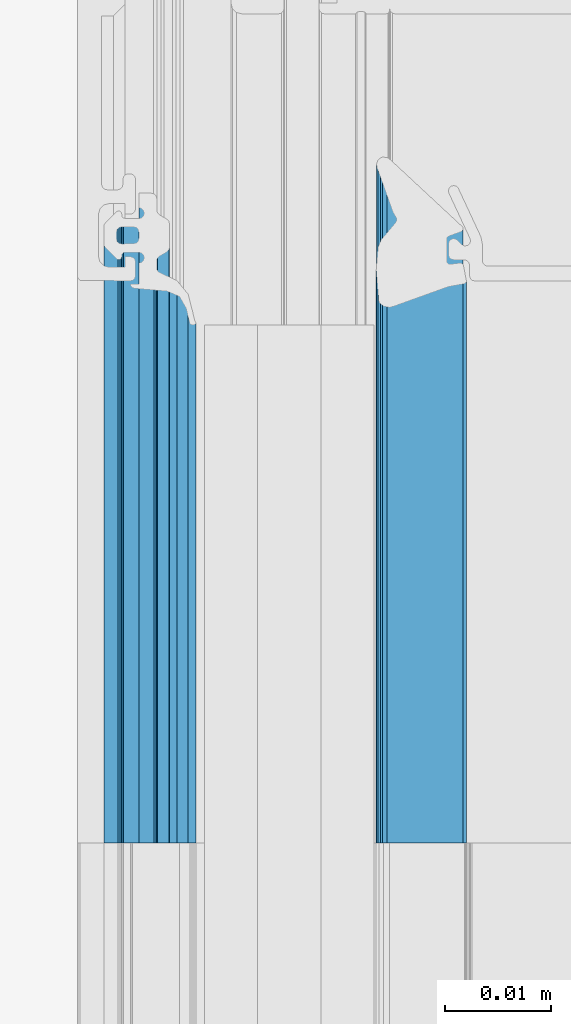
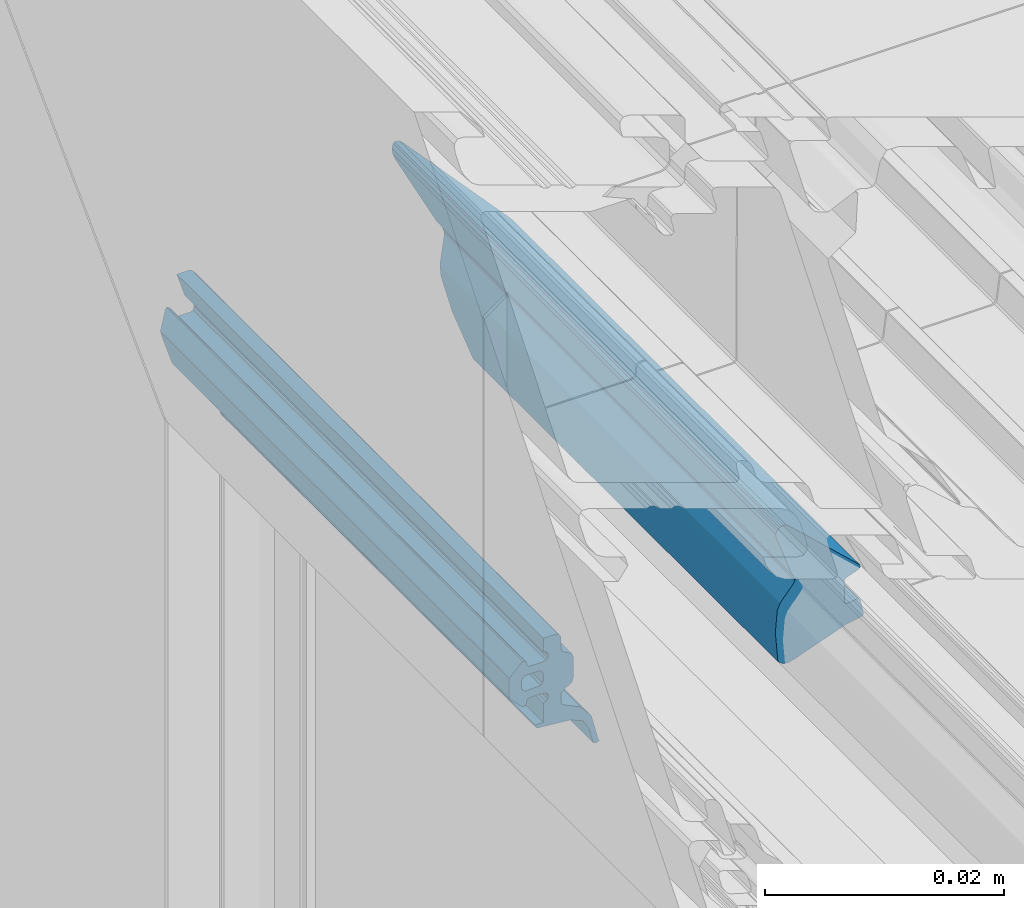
# One storey, part 57 of 62: 1 building element part, 2 elements without a shape of their own.
"""IFC2X3 building model written with IfcOpenShell, lengths in millimetres."""

from ifc_helpers import new_model, entity, si_unit, converted_unit, derived_unit, money_unit, direction, frame, origin_with_axes, place, context, subcontext, project, spatial, faceted_brep, material, type_object, element, aggregate, save


model = new_model("IFC2X3")

# Units and contexts
model_context = context("Model", 3, precision=0.01, world=origin_with_axes(), true_north=direction((0.0, 1.0)))
body_context = subcontext(model_context, "Body", "Model", "MODEL_VIEW")
ifc_project = project(units=[si_unit("LENGTHUNIT", "METRE", prefix="MILLI"), si_unit("AREAUNIT", "SQUARE_METRE"), si_unit("VOLUMEUNIT", "CUBIC_METRE"), converted_unit("PLANEANGLEUNIT", "DEGREE", entity("IfcPlaneAngleMeasure", 0.0174532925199), si_unit("PLANEANGLEUNIT", "RADIAN"), dimensions=[0, 0, 0, 0, 0, 0, 0]), si_unit("SOLIDANGLEUNIT", "STERADIAN"), money_unit("EUR"), converted_unit("TIMEUNIT", "Year", entity("IfcTimeMeasure", 31556926.0), si_unit("TIMEUNIT", "SECOND"), dimensions=[0, 0, 1, 0, 0, 0, 0]), si_unit("MASSUNIT", "GRAM", prefix="KILO"), si_unit("THERMODYNAMICTEMPERATUREUNIT", "DEGREE_CELSIUS"), si_unit("LUMINOUSINTENSITYUNIT", "LUMEN"), si_unit("ENERGYUNIT", "JOULE", prefix="MEGA"), derived_unit("THERMALCONDUCTANCEUNIT", [(si_unit("POWERUNIT", "WATT"), 1), (si_unit("LENGTHUNIT", "METRE"), -1), (si_unit("THERMODYNAMICTEMPERATUREUNIT", "KELVIN"), -1)]), derived_unit("SPECIFICHEATCAPACITYUNIT", [(si_unit("ENERGYUNIT", "JOULE"), 1), (si_unit("MASSUNIT", "GRAM", prefix="KILO"), -1), (si_unit("THERMODYNAMICTEMPERATUREUNIT", "KELVIN"), -1)]), derived_unit("MASSDENSITYUNIT", [(si_unit("MASSUNIT", "GRAM", prefix="KILO"), 1), (si_unit("VOLUMEUNIT", "CUBIC_METRE"), -1)])], contexts=[model_context])

# Site, building, storey
site_placement = place(None, origin_with_axes())
site = spatial("IfcSite", under=ifc_project, at=site_placement, Name="Puškini 31, Narva", CompositionType="ELEMENT")
building_placement = place(site_placement, origin_with_axes())
building = spatial("IfcBuilding", under=site, at=building_placement, Name="Narva Riigigümnaasium", CompositionType="ELEMENT")
storey_placement = place(building_placement, frame((0.0, 0.0, 660.0), z_axis=(0.0, 0.0, 1.0), x_axis=(1.0, 0.0, 0.0)))
storey = spatial("IfcBuildingStorey", under=building, at=storey_placement, Name="2.korrus +0.66", CompositionType="ELEMENT", Elevation=660.0)

# Curtain wall, member, building element part
curtain_wall_type = type_object("IfcCurtainWallType", Name="Curtain Wall Type", PredefinedType="NOTDEFINED")
curtain_wall_placement = place(storey_placement, frame((47544.998162, 221675.502168, -2.45869393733e-05), z_axis=(0.0, 0.0, 1.0), x_axis=(1.0, 0.0, 0.0)))
curtain_wall = element("IfcCurtainWall", 1, at=curtain_wall_placement, inside=storey, type_object=curtain_wall_type, Name="G-SKLF-51")
member_type = type_object("IfcMemberType", Name="61 x 45", PredefinedType="MULLION")
member_placement = place(curtain_wall_placement, frame((-0.00863927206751, 2014.50219759, 2950.00002459), z_axis=(-4.28853938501e-06, 0.999999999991, 0.0), x_axis=(0.0, 0.0, -1.0)))
member = element("IfcMember", 2, at=member_placement, type_object=member_type, Name="G-SKLF-70-raam", ObjectType="MULLION")
aggregate(curtain_wall, [member])
ifc_material = material(Name="Membraan - Veekindel")
building_element_part_placement = place(member_placement, origin_with_axes())
building_element_part = element("IfcBuildingElementPart", 3, at=building_element_part_placement, material=ifc_material, Name="Membraan - Veekindel", context=body_context, shape_type="Brep", body=[
    faceted_brep([(61.0413385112, 34.3890442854, 0.0), (59.5800222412, 34.73794757, 0.0), (59.5800222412, 34.73794757, 50.4157549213), (61.0413385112, 34.3890442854, 48.9544386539), (61.1536677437, 34.1934467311, 0.0), (61.1423164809, 33.9681748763, 0.0), (61.0108941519, 33.784859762, 0.0), (60.7381535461, 33.9217644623, 0.0), (59.8409257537, 34.1343131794, 0.0), (58.2346494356, 34.5489145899, 0.0), (56.9567944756, 35.6067920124, 0.0), (56.2495873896, 37.1074172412, 0.0), (56.1542959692, 37.3107917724, 0.0), (55.9795989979, 37.4519392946, 0.0), (55.7607444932, 37.5023809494, 0.0), (55.1093263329, 37.5023809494, 0.0), (54.8593263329, 37.4353936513, 0.0), (54.676313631, 37.2523809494, 0.0), (54.2721684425, 36.5523809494, 0.0), (54.0891557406, 36.3693682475, 0.0), (53.8391557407, 36.3023809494, 0.0), (51.602145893, 36.3023809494, 0.0), (51.352145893, 36.3693682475, 0.0), (51.1691331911, 36.5523809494, 0.0), (50.7649880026, 37.2523809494, 0.0), (50.5819753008, 37.4353936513, 0.0), (50.3319753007, 37.5023809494, 0.0), (49.2206527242, 37.5023809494, 0.0), (48.9706527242, 37.5693682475, 0.0), (48.7876400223, 37.7523809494, 0.0), (48.7206527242, 38.0023809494, 0.0), (48.7206527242, 39.1999494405, 0.0), (50.10004, 39.1999494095, 0.0), (50.1670287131, 38.9499497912, 0.0), (50.3500424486, 38.7669381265, 0.0), (50.6000428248, 38.699952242, 0.0), (50.8500424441, 38.7669409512, 0.0), (51.0330541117, 38.9499546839, 0.0), (51.10004, 39.1999550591, 0.0), (51.10004, 40.4999366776, 0.0), (51.0598476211, 40.6499366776, 0.0), (50.95004, 40.7597442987, 0.0), (50.80004, 40.7999366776, 0.0), (50.7000457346, 40.7999366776, 0.0), (50.5334025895, 40.8504763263, 0.0), (50.4229059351, 40.9850671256, 0.0), (50.4057850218, 41.1583618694, 0.0), (50.4878083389, 41.3119729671, 0.0), (51.5281601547, 42.3533311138, 0.0), (51.6904310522, 42.4618421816, 0.0), (51.8818844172, 42.4999486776, 0.0), (53.517932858, 42.4999486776, 0.0), (53.7093558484, 42.4618547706, 0.0), (53.8716106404, 42.3533776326, 0.0), (54.9122350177, 41.3120206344, 0.0), (54.9942836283, 41.1584047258, 0.0), (54.9771753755, 40.9850924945, 0.0), (54.866675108, 40.850483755, 0.0), (54.7000173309, 40.7999366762, 0.0), (54.6000210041, 40.7999366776, 0.0), (54.4500210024, 40.7597443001, 0.0), (54.3402133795, 40.6499366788, 0.0), (54.300021, 40.4999366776, 0.0), (54.300021, 39.1999606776, 0.0), (54.3670082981, 38.9499606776, 0.0), (54.5500210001, 38.7669479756, 0.0), (54.8000210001, 38.6999606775, 0.0), (55.0500210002, 38.7669479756, 0.0), (55.2330337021, 38.9499606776, 0.0), (55.3000210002, 39.1999606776, 0.0), (57.3000022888, 39.1999494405, 0.0), (57.3000022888, 39.9999846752, 0.0), (57.5000161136, 39.946391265, 0.0), (57.6464370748, 39.799971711, 0.0), (57.7000324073, 39.5999584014, 0.0), (57.9693613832, 36.5265882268, 0.0), (58.4755028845, 35.3628499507, 0.0), (53.5000340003, 40.7999553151, 0.0), (53.4330491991, 41.0499459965, 0.0), (53.2500433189, 41.2329518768, 0.0), (53.0000526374, 41.299936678, 0.0), (52.4000083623, 41.299936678, 0.0), (52.150017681, 41.2329518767, 0.0), (51.9670118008, 41.0499459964, 0.0), (51.9000269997, 40.799955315, 0.0), (51.9000269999, 39.6999268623, 0.0), (51.9670129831, 39.4499317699, 0.0), (52.1500220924, 39.2669226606, 0.0), (52.4000171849, 39.1999366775, 0.0), (53.0000438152, 39.1999366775, 0.0), (53.2500389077, 39.2669226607, 0.0), (53.433048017, 39.44993177, 0.0), (58.4755028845, 35.3628499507, 51.520274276), (57.9693613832, 36.5265882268, 52.0264157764), (57.7000324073, 39.5999584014, 52.2957447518), (57.6464370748, 39.799971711, 52.3493400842), (57.5000161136, 39.946391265, 52.4957610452), (57.3000022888, 39.9999846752, 52.6957748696), (57.3000022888, 39.1999494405, 52.6957748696), (55.3000210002, 39.1999606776, 54.6957561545), (55.2330337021, 38.9499606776, 54.7627434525), (55.0500210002, 38.7669479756, 54.9457561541), (54.8000210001, 38.6999606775, 55.1957561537), (54.5500210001, 38.7669479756, 55.4457561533), (54.3670082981, 38.9499606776, 55.6287688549), (54.300021, 39.1999606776, 55.6957561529), (54.300021, 40.4999366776, 55.6957561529), (54.3402133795, 40.6499366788, 55.6555637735), (54.4500210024, 40.7597443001, 55.5457561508), (54.6000210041, 40.7999366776, 55.3957561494), (54.7000173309, 40.7999366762, 55.2957598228), (54.866675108, 40.850483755, 55.1291020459), (54.9771753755, 40.9850924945, 55.0186017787), (54.9942836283, 41.1584047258, 55.0014935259), (54.9122350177, 41.3120206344, 55.0835421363), (53.8716106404, 42.3533776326, 56.1241665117), (53.7093558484, 42.4618547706, 56.2864213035), (53.517932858, 42.4999486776, 56.4778442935), (51.8818844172, 42.4999486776, 58.1138927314), (51.6904310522, 42.4618421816, 58.305346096), (51.5281601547, 42.3533311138, 58.4676169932), (50.4878083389, 41.3119729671, 59.5079688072), (50.4057850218, 41.1583618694, 59.5899921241), (50.4229059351, 40.9850671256, 59.5728712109), (50.5334025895, 40.8504763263, 59.4623745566), (50.7000457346, 40.7999366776, 59.2957314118), (50.80004, 40.7999366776, 59.1957371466), (50.95004, 40.7597442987, 59.0457371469), (51.0598476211, 40.6499366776, 58.9359295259), (51.10004, 40.4999366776, 58.8957371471), (51.10004, 39.1999550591, 58.8957371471), (51.0330541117, 38.9499546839, 58.9627230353), (50.8500424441, 38.7669409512, 59.1457347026), (50.6000428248, 38.699952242, 59.3957343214), (50.3500424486, 38.7669381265, 59.6457346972), (50.1670287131, 38.9499497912, 59.8287484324), (50.10004, 39.1999494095, 59.8957371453), (48.7206527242, 39.1999494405, 61.2751244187), (48.7206527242, 38.0023809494, 61.2751244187), (48.7876400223, 37.7523809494, 61.2081371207), (48.9706527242, 37.5693682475, 61.0251244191), (49.2206527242, 37.5023809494, 60.7751244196), (50.3319753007, 37.5023809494, 59.663801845), (50.5819753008, 37.4353936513, 59.4138018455), (50.7649880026, 37.2523809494, 59.2307891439), (51.1691331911, 36.5523809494, 58.8266439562), (51.352145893, 36.3693682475, 58.6436312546), (51.602145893, 36.3023809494, 58.3936312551), (53.8391557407, 36.3023809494, 56.1566214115), (54.0891557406, 36.3693682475, 55.9066214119), (54.2721684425, 36.5523809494, 55.7236087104), (54.676313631, 37.2523809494, 55.3194635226), (54.8593263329, 37.4353936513, 55.1364508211), (55.1093263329, 37.5023809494, 54.8864508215), (55.7607444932, 37.5023809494, 54.2350326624), (55.9795989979, 37.4519392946, 54.0161781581), (56.1542959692, 37.3107917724, 53.8414811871), (56.2495873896, 37.1074172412, 53.7461897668), (56.9567944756, 35.6067920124, 53.0389826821), (58.2346494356, 34.5489145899, 51.7611277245), (59.8409257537, 34.1343131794, 50.1548514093), (60.7381535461, 33.9217644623, 49.2576236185), (61.0108941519, 33.784859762, 48.9848830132), (61.1423164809, 33.9681748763, 48.8534606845), (61.1536677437, 34.1934467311, 48.8421094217), (53.5000340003, 40.7999553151, 56.4957431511), (53.433048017, 39.44993177, 56.5627291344), (53.2500389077, 39.2669226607, 56.7457382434), (53.0000438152, 39.1999366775, 56.9957333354), (52.4000171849, 39.1999366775, 57.5957599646), (52.1500220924, 39.2669226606, 57.8457550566), (51.9670129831, 39.4499317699, 58.0287641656), (51.9000269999, 39.6999268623, 58.0957501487), (51.9000269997, 40.799955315, 58.0957501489), (51.9670118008, 41.0499459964, 58.0287653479), (52.150017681, 41.2329518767, 57.8457594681), (52.4000083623, 41.299936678, 57.5957687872), (53.0000526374, 41.299936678, 56.9957245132), (53.2500433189, 41.2329518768, 56.7457338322), (53.4330491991, 41.0499459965, 56.5627279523)], [[[0, 1, 2, 3]], [[0, 4, 5, 6, 7, 8, 9, 10, 11, 12, 13, 14, 15, 16, 17, 18, 19, 20, 21, 22, 23, 24, 25, 26, 27, 28, 29, 30, 31, 32, 33, 34, 35, 36, 37, 38, 39, 40, 41, 42, 43, 44, 45, 46, 47, 48, 49, 50, 51, 52, 53, 54, 55, 56, 57, 58, 59, 60, 61, 62, 63, 64, 65, 66, 67, 68, 69, 70, 71, 72, 73, 74, 75, 76, 1], [77, 78, 79, 80, 81, 82, 83, 84, 85, 86, 87, 88, 89, 90, 91]], [[1, 76, 92, 2]], [[3, 2, 92, 93, 94, 95, 96, 97, 98, 99, 100, 101, 102, 103, 104, 105, 106, 107, 108, 109, 110, 111, 112, 113, 114, 115, 116, 117, 118, 119, 120, 121, 122, 123, 124, 125, 126, 127, 128, 129, 130, 131, 132, 133, 134, 135, 136, 137, 138, 139, 140, 141, 142, 143, 144, 145, 146, 147, 148, 149, 150, 151, 152, 153, 154, 155, 156, 157, 158, 159, 160, 161, 162, 163, 164], [165, 166, 167, 168, 169, 170, 171, 172, 173, 174, 175, 176, 177, 178, 179]], [[4, 0, 3, 164]], [[5, 4, 164, 163]], [[6, 5, 163, 162]], [[7, 6, 162, 161]], [[8, 7, 161, 160]], [[9, 8, 160, 159]], [[10, 9, 159, 158]], [[11, 10, 158, 157]], [[12, 11, 157, 156]], [[13, 12, 156, 155]], [[14, 13, 155, 154]], [[15, 14, 154, 153]], [[16, 15, 153, 152]], [[17, 16, 152, 151]], [[18, 17, 151, 150]], [[19, 18, 150, 149]], [[20, 19, 149, 148]], [[21, 20, 148, 147]], [[22, 21, 147, 146]], [[23, 22, 146, 145]], [[24, 23, 145, 144]], [[25, 24, 144, 143]], [[26, 25, 143, 142]], [[27, 26, 142, 141]], [[28, 27, 141, 140]], [[29, 28, 140, 139]], [[30, 29, 139, 138]], [[31, 30, 138, 137]], [[32, 31, 137, 136]], [[33, 32, 136, 135]], [[34, 33, 135, 134]], [[35, 34, 134, 133]], [[36, 35, 133, 132]], [[37, 36, 132, 131]], [[38, 37, 131, 130]], [[39, 38, 130, 129]], [[40, 39, 129, 128]], [[41, 40, 128, 127]], [[42, 41, 127, 126]], [[43, 42, 126, 125]], [[44, 43, 125, 124]], [[45, 44, 124, 123]], [[46, 45, 123, 122]], [[47, 46, 122, 121]], [[48, 47, 121, 120]], [[49, 48, 120, 119]], [[50, 49, 119, 118]], [[51, 50, 118, 117]], [[52, 51, 117, 116]], [[53, 52, 116, 115]], [[54, 53, 115, 114]], [[55, 54, 114, 113]], [[56, 55, 113, 112]], [[57, 56, 112, 111]], [[58, 57, 111, 110]], [[59, 58, 110, 109]], [[60, 59, 109, 108]], [[61, 60, 108, 107]], [[62, 61, 107, 106]], [[63, 62, 106, 105]], [[64, 63, 105, 104]], [[65, 64, 104, 103]], [[66, 65, 103, 102]], [[67, 66, 102, 101]], [[68, 67, 101, 100]], [[69, 68, 100, 99]], [[70, 69, 99, 98]], [[71, 70, 98, 97]], [[72, 71, 97, 96]], [[73, 72, 96, 95]], [[74, 73, 95, 94]], [[75, 74, 94, 93]], [[76, 75, 93, 92]], [[78, 77, 165, 179]], [[79, 78, 179, 178]], [[80, 79, 178, 177]], [[81, 80, 177, 176]], [[82, 81, 176, 175]], [[83, 82, 175, 174]], [[84, 83, 174, 173]], [[85, 84, 173, 172]], [[86, 85, 172, 171]], [[87, 86, 171, 170]], [[88, 87, 170, 169]], [[89, 88, 169, 168]], [[90, 89, 168, 167]], [[91, 90, 167, 166]], [[77, 91, 166, 165]]]),
    faceted_brep([(59.0307115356, 16.554149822, 0.0), (55.9926715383, 16.8063498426, 0.0), (55.9926715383, 16.8063498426, 54.0031056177), (59.0307115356, 16.554149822, 50.9650656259), (59.3884652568, 16.1092618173, 0.0), (59.5001582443, 15.5494067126, 0.0), (59.3405112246, 15.0012955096, 0.0), (57.5418652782, 10.0035930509, 0.0), (57.2632233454, 8.46932121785, 0.0), (57.1824204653, 8.36745448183, 0.0), (57.0661058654, 8.3093438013, 0.0), (56.9361285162, 8.30590490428, 0.0), (55.5361285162, 8.57803733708, 0.0), (55.4168250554, 8.62997353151, 0.0), (55.3307332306, 8.72753828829, 0.0), (55.2940485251, 8.85237785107, 0.0), (55.4099827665, 9.81272116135, 0.0), (55.3838261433, 9.9780831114, 0.0), (55.2731258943, 10.1036784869, 0.0), (55.1123574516, 10.1503930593, 0.0), (53.0580290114, 10.1503930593, 0.0), (52.8859560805, 10.0961386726, 0.0), (52.7761212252, 9.95299910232, 0.0), (52.3556584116, 8.79778701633, 0.0), (52.2574645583, 8.66326410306, 0.0), (52.1026310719, 8.60190419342, 0.0), (51.938943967, 8.6326446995, 0.0), (51.8169217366, 8.74599822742, 0.0), (45.6142070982, 15.4144760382, 0.0), (45.3418968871, 15.7688623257, 0.0), (45.3195226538, 16.2152275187, 0.0), (45.3889077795, 16.3899097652, 0.0), (45.6241929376, 16.6482027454, 0.0), (45.950966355, 16.7718696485, 0.0), (46.298307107, 16.7340705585, 0.0), (50.5536994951, 15.2121179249, 0.0), (50.8437237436, 15.0307134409, 0.0), (51.0558924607, 14.9074036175, 0.0), (51.3011765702, 14.8998814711, 0.0), (51.5205025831, 15.0099586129, 0.0), (53.1225200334, 16.3483062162, 0.0), (53.7899070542, 16.6230039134, 0.0), (53.7899070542, 16.6230039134, 56.2058700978), (53.1225200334, 16.3483062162, 56.8732571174), (51.5205025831, 15.0099586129, 58.4752745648), (51.3011765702, 14.8998814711, 58.6946005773), (51.0558924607, 14.9074036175, 58.9398846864), (50.8437237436, 15.0307134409, 59.1520534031), (50.5536994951, 15.2121179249, 59.442077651), (46.298307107, 16.7340705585, 63.6974700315), (45.950966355, 16.7718696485, 64.0448107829), (45.6241929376, 16.6482027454, 64.3715841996), (45.3889077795, 16.3899097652, 64.6068693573), (45.3195226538, 16.2152275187, 64.6762544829), (45.3418968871, 15.7688623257, 64.6538802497), (45.6142070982, 15.4144760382, 64.3815700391), (51.8169217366, 8.74599822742, 58.1788554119), (51.938943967, 8.6326446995, 58.0568331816), (52.1026310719, 8.60190419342, 57.8931460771), (52.2574645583, 8.66326410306, 57.7383125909), (52.3556584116, 8.79778701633, 57.6401187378), (52.7761212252, 9.95299910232, 57.219655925), (52.8859560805, 10.0961386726, 57.1098210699), (53.0580290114, 10.1503930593, 56.9377481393), (55.1123574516, 10.1503930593, 54.8834197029), (55.2731258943, 10.1036784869, 54.7226512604), (55.3838261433, 9.9780831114, 54.6119510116), (55.4099827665, 9.81272116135, 54.5857943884), (55.2940485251, 8.85237785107, 54.7017286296), (55.3307332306, 8.72753828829, 54.6650439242), (55.4168250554, 8.62997353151, 54.5789520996), (55.5361285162, 8.57803733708, 54.459648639), (56.9361285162, 8.30590490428, 53.0596486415), (57.0661058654, 8.3093438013, 52.9296712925), (57.1824204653, 8.36745448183, 52.8133566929), (57.2632233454, 8.46932121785, 52.7325538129), (57.5418652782, 10.0035930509, 52.4539118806), (59.3405112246, 15.0012955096, 50.6552659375), (59.5001582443, 15.5494067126, 50.4956189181), (59.3884652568, 16.1092618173, 50.6073119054)], [[[0, 1, 2, 3]], [[0, 4, 5, 6, 7, 8, 9, 10, 11, 12, 13, 14, 15, 16, 17, 18, 19, 20, 21, 22, 23, 24, 25, 26, 27, 28, 29, 30, 31, 32, 33, 34, 35, 36, 37, 38, 39, 40, 41, 1]], [[1, 41, 42, 2]], [[3, 2, 42, 43, 44, 45, 46, 47, 48, 49, 50, 51, 52, 53, 54, 55, 56, 57, 58, 59, 60, 61, 62, 63, 64, 65, 66, 67, 68, 69, 70, 71, 72, 73, 74, 75, 76, 77, 78, 79]], [[4, 0, 3, 79]], [[5, 4, 79, 78]], [[6, 5, 78, 77]], [[7, 6, 77, 76]], [[8, 7, 76, 75]], [[9, 8, 75, 74]], [[10, 9, 74, 73]], [[11, 10, 73, 72]], [[12, 11, 72, 71]], [[13, 12, 71, 70]], [[14, 13, 70, 69]], [[15, 14, 69, 68]], [[16, 15, 68, 67]], [[17, 16, 67, 66]], [[18, 17, 66, 65]], [[19, 18, 65, 64]], [[20, 19, 64, 63]], [[21, 20, 63, 62]], [[22, 21, 62, 61]], [[23, 22, 61, 60]], [[24, 23, 60, 59]], [[25, 24, 59, 58]], [[26, 25, 58, 57]], [[27, 26, 57, 56]], [[28, 27, 56, 55]], [[29, 28, 55, 54]], [[30, 29, 54, 53]], [[31, 30, 53, 52]], [[32, 31, 52, 51]], [[33, 32, 51, 50]], [[34, 33, 50, 49]], [[35, 34, 49, 48]], [[36, 35, 48, 47]], [[37, 36, 47, 46]], [[38, 37, 46, 45]], [[39, 38, 45, 44]], [[40, 39, 44, 43]], [[41, 40, 43, 42]]]),
])
aggregate(member, [building_element_part])

save(model, "model.ifc")
